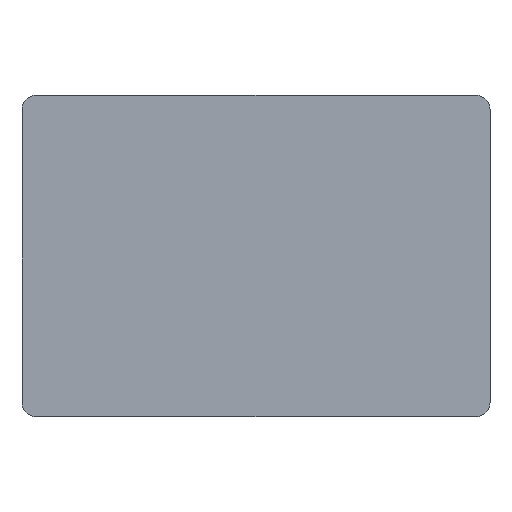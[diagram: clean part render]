
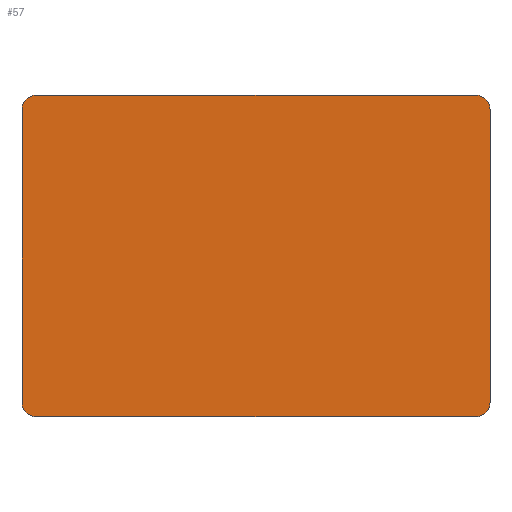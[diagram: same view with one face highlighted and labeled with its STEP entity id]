
A CAD part, top view. The second image highlights one B-rep face of the part: STEP entity #57.
In plain terms, the highlighted planar face has unit normal (0, 0, 1).
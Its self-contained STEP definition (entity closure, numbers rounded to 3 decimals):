
#21 = EDGE_CURVE('',#22,#24,#26,.T.);
#22 = VERTEX_POINT('',#23);
#23 = CARTESIAN_POINT('',(30.,30.,112.));
#24 = VERTEX_POINT('',#25);
#25 = CARTESIAN_POINT('',(30.,130.,112.));
#26 = LINE('',#27,#28);
#27 = CARTESIAN_POINT('',(30.,25.,112.));
#28 = VECTOR('',#29,1.);
#29 = DIRECTION('',(0.,1.,0.));
#57 = ADVANCED_FACE('',(#58),#119,.T.);
#58 = FACE_BOUND('',#59,.T.);
#59 = EDGE_LOOP('',(#60,#61,#70,#78,#87,#95,#104,#112));
#60 = ORIENTED_EDGE('',*,*,#21,.F.);
#61 = ORIENTED_EDGE('',*,*,#62,.T.);
#62 = EDGE_CURVE('',#22,#63,#65,.T.);
#63 = VERTEX_POINT('',#64);
#64 = CARTESIAN_POINT('',(35.,25.,112.));
#65 = CIRCLE('',#66,5.);
#66 = AXIS2_PLACEMENT_3D('',#67,#68,#69);
#67 = CARTESIAN_POINT('',(35.,30.,112.));
#68 = DIRECTION('',(-0.,0.,1.));
#69 = DIRECTION('',(0.,-1.,0.));
#70 = ORIENTED_EDGE('',*,*,#71,.T.);
#71 = EDGE_CURVE('',#63,#72,#74,.T.);
#72 = VERTEX_POINT('',#73);
#73 = CARTESIAN_POINT('',(185.,25.,112.));
#74 = LINE('',#75,#76);
#75 = CARTESIAN_POINT('',(30.,25.,112.));
#76 = VECTOR('',#77,1.);
#77 = DIRECTION('',(1.,0.,0.));
#78 = ORIENTED_EDGE('',*,*,#79,.F.);
#79 = EDGE_CURVE('',#80,#72,#82,.T.);
#80 = VERTEX_POINT('',#81);
#81 = CARTESIAN_POINT('',(190.,30.,112.));
#82 = CIRCLE('',#83,5.);
#83 = AXIS2_PLACEMENT_3D('',#84,#85,#86);
#84 = CARTESIAN_POINT('',(185.,30.,112.));
#85 = DIRECTION('',(-0.,-0.,-1.));
#86 = DIRECTION('',(0.,-1.,0.));
#87 = ORIENTED_EDGE('',*,*,#88,.T.);
#88 = EDGE_CURVE('',#80,#89,#91,.T.);
#89 = VERTEX_POINT('',#90);
#90 = CARTESIAN_POINT('',(190.,130.,112.));
#91 = LINE('',#92,#93);
#92 = CARTESIAN_POINT('',(190.,25.,112.));
#93 = VECTOR('',#94,1.);
#94 = DIRECTION('',(0.,1.,0.));
#95 = ORIENTED_EDGE('',*,*,#96,.T.);
#96 = EDGE_CURVE('',#89,#97,#99,.T.);
#97 = VERTEX_POINT('',#98);
#98 = CARTESIAN_POINT('',(185.,135.,112.));
#99 = CIRCLE('',#100,5.);
#100 = AXIS2_PLACEMENT_3D('',#101,#102,#103);
#101 = CARTESIAN_POINT('',(185.,130.,112.));
#102 = DIRECTION('',(-0.,0.,1.));
#103 = DIRECTION('',(0.,-1.,0.));
#104 = ORIENTED_EDGE('',*,*,#105,.F.);
#105 = EDGE_CURVE('',#106,#97,#108,.T.);
#106 = VERTEX_POINT('',#107);
#107 = CARTESIAN_POINT('',(35.,135.,112.));
#108 = LINE('',#109,#110);
#109 = CARTESIAN_POINT('',(30.,135.,112.));
#110 = VECTOR('',#111,1.);
#111 = DIRECTION('',(1.,0.,0.));
#112 = ORIENTED_EDGE('',*,*,#113,.F.);
#113 = EDGE_CURVE('',#24,#106,#114,.T.);
#114 = CIRCLE('',#115,5.);
#115 = AXIS2_PLACEMENT_3D('',#116,#117,#118);
#116 = CARTESIAN_POINT('',(35.,130.,112.));
#117 = DIRECTION('',(-0.,-0.,-1.));
#118 = DIRECTION('',(0.,-1.,0.));
#119 = PLANE('',#120);
#120 = AXIS2_PLACEMENT_3D('',#121,#122,#123);
#121 = CARTESIAN_POINT('',(30.,25.,112.));
#122 = DIRECTION('',(0.,0.,1.));
#123 = DIRECTION('',(1.,0.,0.));
